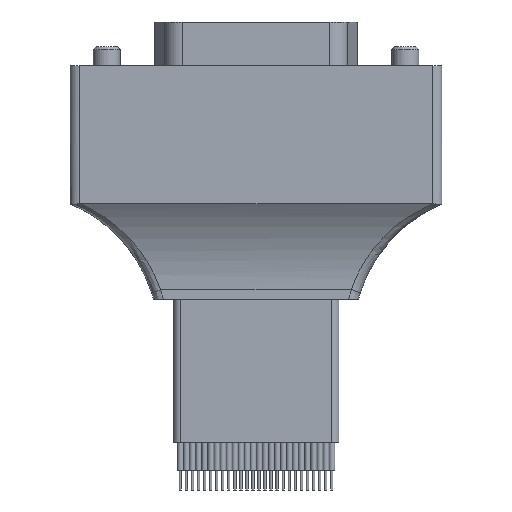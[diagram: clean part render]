
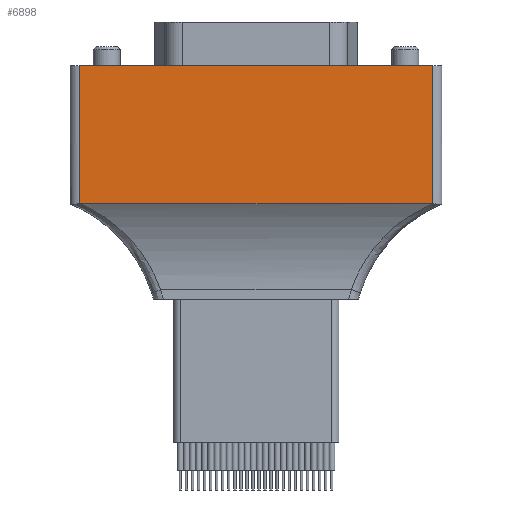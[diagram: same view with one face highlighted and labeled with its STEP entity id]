
A CAD part, front view. The second image highlights one B-rep face of the part: STEP entity #6898.
In plain terms, the highlighted planar face has unit normal (0, -1, 0).
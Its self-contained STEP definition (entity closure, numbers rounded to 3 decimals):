
#90 = CARTESIAN_POINT ( 'NONE',  ( 17.045, 3.144, -14.5 ) ) ;
#599 = EDGE_CURVE ( 'NONE', #6875, #9711, #1686, .T. ) ;
#644 = LINE ( 'NONE', #6290, #8044 ) ;
#928 = VECTOR ( 'NONE', #15859, 1000. ) ;
#1541 = CARTESIAN_POINT ( 'NONE',  ( 54.933, 3.144, 0. ) ) ;
#1686 = LINE ( 'NONE', #8792, #4023 ) ;
#3050 = CARTESIAN_POINT ( 'NONE',  ( 16.933, 3.144, -14.498 ) ) ;
#3893 = CARTESIAN_POINT ( 'NONE',  ( 53.933, 3.144, -14.498 ) ) ;
#4023 = VECTOR ( 'NONE', #16116, 1000. ) ;
#4515 = PLANE ( 'NONE',  #12968 ) ;
#4544 = CARTESIAN_POINT ( 'NONE',  ( 16.97, 3.144, -14.499 ) ) ;
#5271 = LINE ( 'NONE', #8192, #15481 ) ;
#6290 = CARTESIAN_POINT ( 'NONE',  ( 53.933, 3.144, 0. ) ) ;
#6361 = CARTESIAN_POINT ( 'NONE',  ( 16.933, 3.144, -14.498 ) ) ;
#6444 = DIRECTION ( 'NONE',  ( 0., 0., 1. ) ) ;
#6486 = VERTEX_POINT ( 'NONE', #7680 ) ;
#6875 = VERTEX_POINT ( 'NONE', #8013 ) ;
#6898 = ADVANCED_FACE ( 'NONE', ( #11459 ), #4515, .T. ) ;
#7093 = CARTESIAN_POINT ( 'NONE',  ( 54.933, 3.144, 0. ) ) ;
#7680 = CARTESIAN_POINT ( 'NONE',  ( 16.933, 3.144, 0. ) ) ;
#8013 = CARTESIAN_POINT ( 'NONE',  ( 17.045, 3.144, -14.5 ) ) ;
#8044 = VECTOR ( 'NONE', #6444, 1000. ) ;
#8159 = EDGE_CURVE ( 'NONE', #16551, #6875, #17927, .T. ) ;
#8192 = CARTESIAN_POINT ( 'NONE',  ( 16.933, 3.144, 0. ) ) ;
#8792 = CARTESIAN_POINT ( 'NONE',  ( 17.045, 3.144, -14.5 ) ) ;
#8868 = EDGE_LOOP ( 'NONE', ( #14016, #13535, #10997, #15386, #17290, #14300 ) ) ;
#9003 = CARTESIAN_POINT ( 'NONE',  ( 53.933, 3.144, -14.498 ) ) ;
#9264 = VERTEX_POINT ( 'NONE', #12911 ) ;
#9273 = CARTESIAN_POINT ( 'NONE',  ( 53.858, 3.144, -14.5 ) ) ;
#9711 = VERTEX_POINT ( 'NONE', #13591 ) ;
#10146 = DIRECTION ( 'NONE',  ( 0., -1., 0. ) ) ;
#10505 = CARTESIAN_POINT ( 'NONE',  ( 53.896, 3.144, -14.499 ) ) ;
#10744 = B_SPLINE_CURVE_WITH_KNOTS ( 'NONE', 3,
 ( #17421, #9273, #10505, #9003 ),
 .UNSPECIFIED., .F., .F.,
 ( 4, 4 ),
 ( 0., 0. ),
 .UNSPECIFIED. ) ;
#10819 = EDGE_CURVE ( 'NONE', #17307, #9264, #644, .T. ) ;
#10997 = ORIENTED_EDGE ( 'NONE', *, *, #12045, .T. ) ;
#11459 = FACE_OUTER_BOUND ( 'NONE', #8868, .T. ) ;
#11591 = CARTESIAN_POINT ( 'NONE',  ( 17.008, 3.144, -14.5 ) ) ;
#11649 = LINE ( 'NONE', #1541, #928 ) ;
#12045 = EDGE_CURVE ( 'NONE', #6486, #16551, #5271, .T. ) ;
#12131 = EDGE_CURVE ( 'NONE', #9264, #6486, #11649, .T. ) ;
#12911 = CARTESIAN_POINT ( 'NONE',  ( 53.933, 3.144, 0. ) ) ;
#12968 = AXIS2_PLACEMENT_3D ( 'NONE', #7093, #10146, #14159 ) ;
#13535 = ORIENTED_EDGE ( 'NONE', *, *, #12131, .T. ) ;
#13591 = CARTESIAN_POINT ( 'NONE',  ( 53.821, 3.144, -14.5 ) ) ;
#13995 = DIRECTION ( 'NONE',  ( 0., 0., -1. ) ) ;
#14016 = ORIENTED_EDGE ( 'NONE', *, *, #10819, .T. ) ;
#14159 = DIRECTION ( 'NONE',  ( 1., 0., 0. ) ) ;
#14300 = ORIENTED_EDGE ( 'NONE', *, *, #16255, .T. ) ;
#15386 = ORIENTED_EDGE ( 'NONE', *, *, #8159, .T. ) ;
#15481 = VECTOR ( 'NONE', #13995, 1000. ) ;
#15859 = DIRECTION ( 'NONE',  ( -1., 0., 0. ) ) ;
#16116 = DIRECTION ( 'NONE',  ( 1., 0., 0. ) ) ;
#16255 = EDGE_CURVE ( 'NONE', #9711, #17307, #10744, .T. ) ;
#16551 = VERTEX_POINT ( 'NONE', #6361 ) ;
#17290 = ORIENTED_EDGE ( 'NONE', *, *, #599, .T. ) ;
#17307 = VERTEX_POINT ( 'NONE', #3893 ) ;
#17421 = CARTESIAN_POINT ( 'NONE',  ( 53.821, 3.144, -14.5 ) ) ;
#17927 = B_SPLINE_CURVE_WITH_KNOTS ( 'NONE', 3,
 ( #3050, #4544, #11591, #90 ),
 .UNSPECIFIED., .F., .F.,
 ( 4, 4 ),
 ( 0., 0. ),
 .UNSPECIFIED. ) ;
